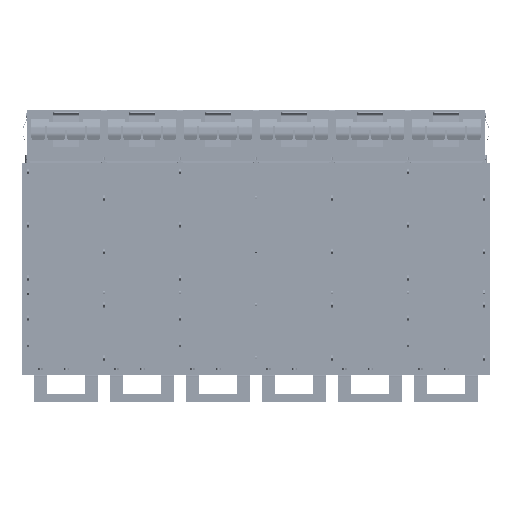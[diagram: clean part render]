
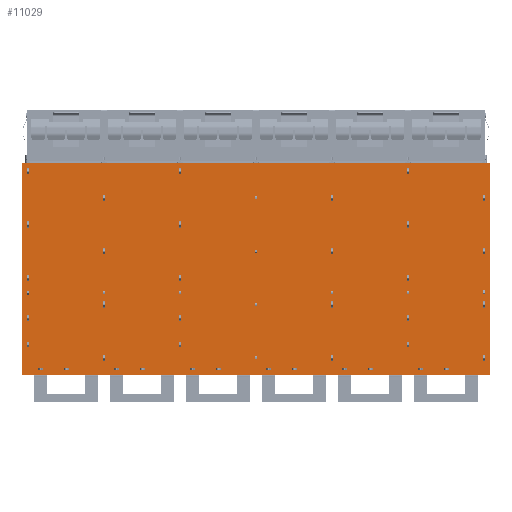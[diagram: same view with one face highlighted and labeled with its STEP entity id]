
A CAD part, front view. The second image highlights one B-rep face of the part: STEP entity #11029.
In plain terms, the highlighted planar face has unit normal (0, -1, 0).
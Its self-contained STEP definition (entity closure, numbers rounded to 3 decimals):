
#3320=PLANE('',#138638);
#11029=ADVANCED_FACE('',(#20436),#3320,.T.);
#20436=FACE_OUTER_BOUND('',#27326,.T.);
#27326=EDGE_LOOP('',(#88648,#88649,#88650,#88651));
#39136=LINE('',#224493,#50954);
#39140=LINE('',#224501,#50958);
#39143=LINE('',#224507,#50961);
#39145=LINE('',#224510,#50963);
#50954=VECTOR('',#175502,1.);
#50958=VECTOR('',#175508,1.);
#50961=VECTOR('',#175513,1.);
#50963=VECTOR('',#175517,1.);
#88648=ORIENTED_EDGE('',*,*,#119770,.T.);
#88649=ORIENTED_EDGE('',*,*,#119774,.T.);
#88650=ORIENTED_EDGE('',*,*,#119777,.T.);
#88651=ORIENTED_EDGE('',*,*,#119779,.T.);
#100928=VERTEX_POINT('',#224492);
#100929=VERTEX_POINT('',#224494);
#100931=VERTEX_POINT('',#224500);
#100933=VERTEX_POINT('',#224506);
#119770=EDGE_CURVE('',#100929,#100928,#39136,.T.);
#119774=EDGE_CURVE('',#100928,#100931,#39140,.T.);
#119777=EDGE_CURVE('',#100931,#100933,#39143,.T.);
#119779=EDGE_CURVE('',#100933,#100929,#39145,.T.);
#138638=AXIS2_PLACEMENT_3D('',#224512,#175520,#175521);
#175502=DIRECTION('',(1.,0.,0.));
#175508=DIRECTION('',(0.,0.,1.));
#175513=DIRECTION('',(-1.,0.,0.));
#175517=DIRECTION('',(0.,0.,-1.));
#175520=DIRECTION('',(0.,-1.,0.));
#175521=DIRECTION('',(0.,0.,-1.));
#224492=CARTESIAN_POINT('',(43.875,-9.95,-49.75));
#224493=CARTESIAN_POINT('',(-43.875,-9.95,-49.75));
#224494=CARTESIAN_POINT('',(-43.875,-9.95,-49.75));
#224500=CARTESIAN_POINT('',(43.875,-9.95,-10.));
#224501=CARTESIAN_POINT('',(43.875,-9.95,-49.75));
#224506=CARTESIAN_POINT('',(-43.875,-9.95,-10.));
#224507=CARTESIAN_POINT('',(43.875,-9.95,-10.));
#224510=CARTESIAN_POINT('',(-43.875,-9.95,-10.));
#224512=CARTESIAN_POINT('',(0.,-9.95,0.));
